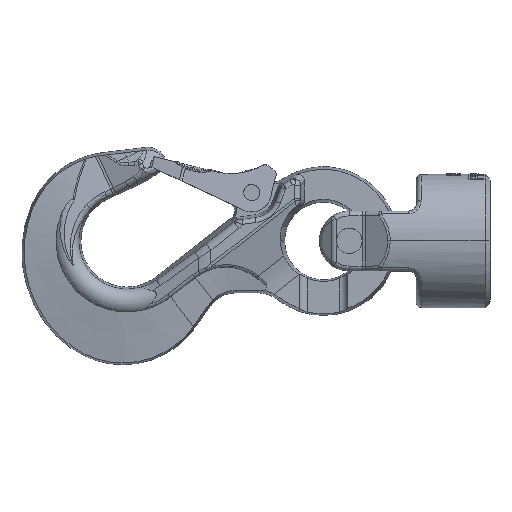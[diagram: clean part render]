
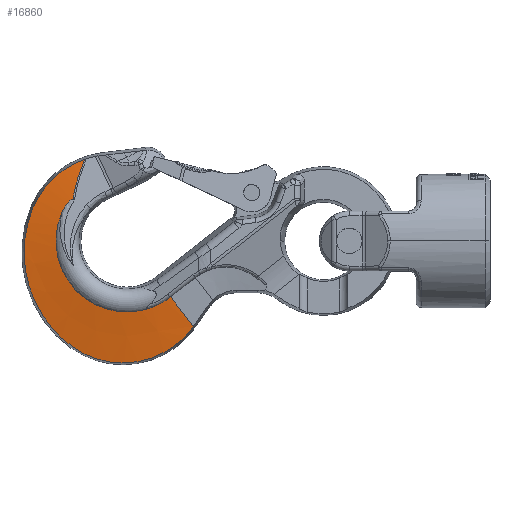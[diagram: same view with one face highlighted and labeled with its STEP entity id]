
A CAD part, top view. The second image highlights one B-rep face of the part: STEP entity #16860.
In plain terms, the highlighted conical face has half-angle 80.84 degrees and reference radius 58.871 mm.
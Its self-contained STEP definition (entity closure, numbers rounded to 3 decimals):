
#12179=CARTESIAN_POINT('',(-50.452,9.992,
171.683));
#12180=CARTESIAN_POINT('',(-48.241,10.24,
172.608));
#12181=CARTESIAN_POINT('',(-43.905,10.708,
174.279));
#12182=CARTESIAN_POINT('',(-37.746,11.321,
176.264));
#12183=CARTESIAN_POINT('',(-31.73,11.871,
177.822));
#12184=CARTESIAN_POINT('',(-27.757,12.2,
178.587));
#12185=CARTESIAN_POINT('',(-25.788,12.354,
178.899));
#12187=CARTESIAN_POINT('',(-25.788,12.354,
178.899));
#12188=CARTESIAN_POINT('',(-25.807,12.346,
178.949));
#12189=CARTESIAN_POINT('',(-25.828,12.33,
179.059));
#12190=CARTESIAN_POINT('',(-25.814,12.307,
179.242));
#12191=CARTESIAN_POINT('',(-25.76,12.286,
179.447));
#12192=CARTESIAN_POINT('',(-25.668,12.267,
179.67));
#12193=CARTESIAN_POINT('',(-25.547,12.249,
179.897));
#12194=CARTESIAN_POINT('',(-25.406,12.234,
180.121));
#12195=CARTESIAN_POINT('',(-25.234,12.218,
180.362));
#12196=CARTESIAN_POINT('',(-25.035,12.204,
180.615));
#12197=CARTESIAN_POINT('',(-24.806,12.19,
180.881));
#12198=CARTESIAN_POINT('',(-24.546,12.177,
181.161));
#12199=CARTESIAN_POINT('',(-24.251,12.165,
181.457));
#12200=CARTESIAN_POINT('',(-23.918,12.153,
181.768));
#12201=CARTESIAN_POINT('',(-23.544,12.141,
182.096));
#12202=CARTESIAN_POINT('',(-23.125,12.131,
182.441));
#12203=CARTESIAN_POINT('',(-22.656,12.121,
182.804));
#12204=CARTESIAN_POINT('',(-22.132,12.111,
183.184));
#12205=CARTESIAN_POINT('',(-21.547,12.103,
183.581));
#12206=CARTESIAN_POINT('',(-20.893,12.096,
183.996));
#12207=CARTESIAN_POINT('',(-20.163,12.09,
184.426));
#12208=CARTESIAN_POINT('',(-19.348,12.085,
184.87));
#12209=CARTESIAN_POINT('',(-18.439,12.082,
185.326));
#12210=CARTESIAN_POINT('',(-17.76,12.081,
185.636));
#12211=CARTESIAN_POINT('',(-17.402,12.081,
185.79));
#12213=CARTESIAN_POINT('',(0.,12.081,145.5));
#12214=DIRECTION('',(0.,1.,0.));
#12215=DIRECTION('',(0.934,0.,-0.358));
#12216=AXIS2_PLACEMENT_3D('',#12213,#12214,#12215);
#12218=DIRECTION('',(0.778,-0.159,-0.608));
#12219=VECTOR('',#12218,23.287);
#12220=CARTESIAN_POINT('',(34.584,12.081,118.48));
#12221=LINE('',#12220,#12219);
#12222=CARTESIAN_POINT('',(65.233,7.303,179.409));
#12223=CARTESIAN_POINT('',(66.412,7.255,177.78));
#12224=CARTESIAN_POINT('',(68.593,7.17,174.38));
#12225=CARTESIAN_POINT('',(71.282,7.073,168.908));
#12226=CARTESIAN_POINT('',(73.327,7.008,163.174));
#12227=CARTESIAN_POINT('',(74.699,6.976,157.311));
#12228=CARTESIAN_POINT('',(75.41,6.976,151.282));
#12229=CARTESIAN_POINT('',(75.431,7.008,145.191));
#12230=CARTESIAN_POINT('',(74.766,7.072,139.174));
#12231=CARTESIAN_POINT('',(73.433,7.167,133.284));
#12232=CARTESIAN_POINT('',(71.444,7.294,127.578));
#12233=CARTESIAN_POINT('',(68.825,7.451,122.135));
#12234=CARTESIAN_POINT('',(65.619,7.637,117.031));
#12235=CARTESIAN_POINT('',(61.827,7.854,112.281));
#12236=CARTESIAN_POINT('',(57.509,8.1,107.985));
#12237=CARTESIAN_POINT('',(54.343,8.28,105.482));
#12238=CARTESIAN_POINT('',(52.7,8.374,104.326));
#12240=CARTESIAN_POINT('',(-20.463,9.224,
203.607));
#12241=CARTESIAN_POINT('',(-18.193,9.202,
204.55));
#12242=CARTESIAN_POINT('',(-13.554,9.152,
206.204));
#12243=CARTESIAN_POINT('',(-6.336,9.057,
207.965));
#12244=CARTESIAN_POINT('',(1.014,8.945,208.97));
#12245=CARTESIAN_POINT('',(8.384,8.818,209.214));
#12246=CARTESIAN_POINT('',(15.771,8.677,208.701));
#12247=CARTESIAN_POINT('',(23.08,8.524,207.425));
#12248=CARTESIAN_POINT('',(30.186,8.361,205.414));
#12249=CARTESIAN_POINT('',(37.049,8.192,202.687));
#12250=CARTESIAN_POINT('',(43.614,8.016,199.258));
#12251=CARTESIAN_POINT('',(49.774,7.838,195.185));
#12252=CARTESIAN_POINT('',(55.501,7.658,190.487));
#12253=CARTESIAN_POINT('',(60.702,7.479,185.237));
#12254=CARTESIAN_POINT('',(63.792,7.361,181.4));
#12255=CARTESIAN_POINT('',(65.233,7.303,179.409));
#12257=CARTESIAN_POINT('',(-50.452,9.992,
171.683));
#12258=CARTESIAN_POINT('',(-49.842,9.948,
173.457));
#12259=CARTESIAN_POINT('',(-48.434,9.861,
176.944));
#12260=CARTESIAN_POINT('',(-45.785,9.739,
181.919));
#12261=CARTESIAN_POINT('',(-42.613,9.625,
186.605));
#12262=CARTESIAN_POINT('',(-38.969,9.522,
190.921));
#12263=CARTESIAN_POINT('',(-34.912,9.43,
194.811));
#12264=CARTESIAN_POINT('',(-30.433,9.348,
198.28));
#12265=CARTESIAN_POINT('',(-25.596,9.279,
201.261));
#12266=CARTESIAN_POINT('',(-22.197,9.241,
202.887));
#12267=CARTESIAN_POINT('',(-20.463,9.224,
203.607));
#12277=CARTESIAN_POINT('',(-50.452,9.992,
171.683));
#12289=CARTESIAN_POINT('',(-17.402,12.081,
185.79));
#12348=CARTESIAN_POINT('',(0.,12.081,145.5));
#12349=DIRECTION('',(0.,-1.,0.));
#12350=DIRECTION('',(0.934,0.,-0.358));
#12351=AXIS2_PLACEMENT_3D('',#12348,#12349,#12350);
#12698=CARTESIAN_POINT('',(52.7,8.374,104.326));
#14671=CARTESIAN_POINT('',(40.986,12.081,129.808));
#14896=CARTESIAN_POINT('',(34.584,12.081,118.48));
#14897=VERTEX_POINT('',#14896);
#14909=VERTEX_POINT('',#12698);
#14910=VERTEX_POINT('',#12222);
#14911=VERTEX_POINT('',#12240);
#14983=VERTEX_POINT('',#14671);
#14996=VERTEX_POINT('',#12289);
#15000=VERTEX_POINT('',#12277);
#15031=VERTEX_POINT('',#12187);
#16839=CARTESIAN_POINT('',(0.,9.665,145.5));
#16840=DIRECTION('',(0.,-1.,0.));
#16841=DIRECTION('',(-0.788,0.,0.616));
#16842=AXIS2_PLACEMENT_3D('',#16839,#16840,#16841);
#16843=CONICAL_SURFACE('',#16842,58.871,80.84);
#16845=ORIENTED_EDGE('',*,*,#16844,.T.);
#16847=ORIENTED_EDGE('',*,*,#16846,.T.);
#16849=ORIENTED_EDGE('',*,*,#16848,.F.);
#16851=ORIENTED_EDGE('',*,*,#16850,.T.);
#16853=ORIENTED_EDGE('',*,*,#16852,.T.);
#16855=ORIENTED_EDGE('',*,*,#16854,.F.);
#16856=ORIENTED_EDGE('',*,*,#16832,.F.);
#16857=ORIENTED_EDGE('',*,*,#16782,.F.);
#16858=EDGE_LOOP('',(#16845,#16847,#16849,#16851,#16853,#16855,#16856,#16857));
#16859=FACE_OUTER_BOUND('',#16858,.F.);
#16860=ADVANCED_FACE('',(#16859),#16843,.T.);
#12186=B_SPLINE_CURVE_WITH_KNOTS('',3,(#12179,#12180,#12181,#12182,#12183,
#12184,#12185),.UNSPECIFIED.,.F.,.F.,(4,1,1,1,4),(0.,0.25,0.5,0.75,
1.),.UNSPECIFIED.);
#12212=B_SPLINE_CURVE_WITH_KNOTS('',3,(#12187,#12188,#12189,#12190,#12191,
#12192,#12193,#12194,#12195,#12196,#12197,#12198,#12199,#12200,#12201,#12202,
#12203,#12204,#12205,#12206,#12207,#12208,#12209,#12210,#12211),.UNSPECIFIED.,
.F.,.F.,(4,1,1,1,1,1,1,1,1,1,1,1,1,1,1,1,1,1,1,1,1,1,4),(0.,0.045,
0.091,0.136,0.182,0.227,
0.273,0.318,0.364,0.409,
0.455,0.5,0.545,0.591,0.636,
0.682,0.727,0.773,0.818,
0.864,0.909,0.955,1.),.UNSPECIFIED.);
#12217=CIRCLE('',#12216,43.888);
#12239=B_SPLINE_CURVE_WITH_KNOTS('',3,(#12222,#12223,#12224,#12225,#12226,
#12227,#12228,#12229,#12230,#12231,#12232,#12233,#12234,#12235,#12236,#12237,
#12238),.UNSPECIFIED.,.F.,.F.,(4,1,1,1,1,1,1,1,1,1,1,1,1,1,4),(0.,
0.071,0.143,0.214,0.286,
0.357,0.429,0.5,0.571,0.643,
0.714,0.786,0.857,0.929,1.),
.UNSPECIFIED.);
#12256=B_SPLINE_CURVE_WITH_KNOTS('',3,(#12240,#12241,#12242,#12243,#12244,
#12245,#12246,#12247,#12248,#12249,#12250,#12251,#12252,#12253,#12254,#12255),
.UNSPECIFIED.,.F.,.F.,(4,1,1,1,1,1,1,1,1,1,1,1,1,4),(0.,0.077,
0.154,0.231,0.308,0.385,
0.462,0.538,0.615,0.692,
0.769,0.846,0.923,1.),.UNSPECIFIED.);
#12268=B_SPLINE_CURVE_WITH_KNOTS('',3,(#12257,#12258,#12259,#12260,#12261,
#12262,#12263,#12264,#12265,#12266,#12267),.UNSPECIFIED.,.F.,.F.,(4,1,1,1,1,1,1,
1,4),(0.,0.125,0.25,0.375,0.5,0.625,0.75,0.875,1.),
.UNSPECIFIED.);
#12352=CIRCLE('',#12351,43.888);
#16782=EDGE_CURVE('',#15000,#14911,#12268,.T.);
#16832=EDGE_CURVE('',#14911,#14910,#12256,.T.);
#16844=EDGE_CURVE('',#15000,#15031,#12186,.T.);
#16846=EDGE_CURVE('',#15031,#14996,#12212,.T.);
#16848=EDGE_CURVE('',#14983,#14996,#12352,.T.);
#16850=EDGE_CURVE('',#14983,#14897,#12217,.T.);
#16852=EDGE_CURVE('',#14897,#14909,#12221,.T.);
#16854=EDGE_CURVE('',#14910,#14909,#12239,.T.);
